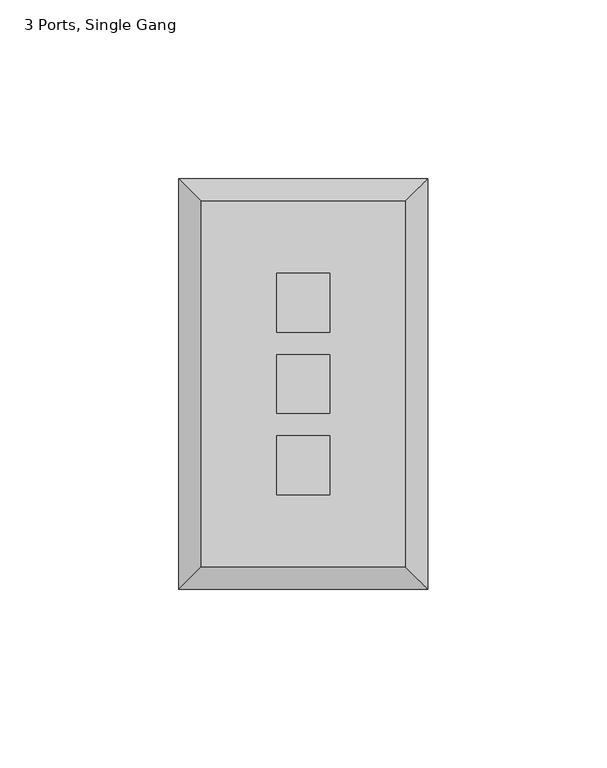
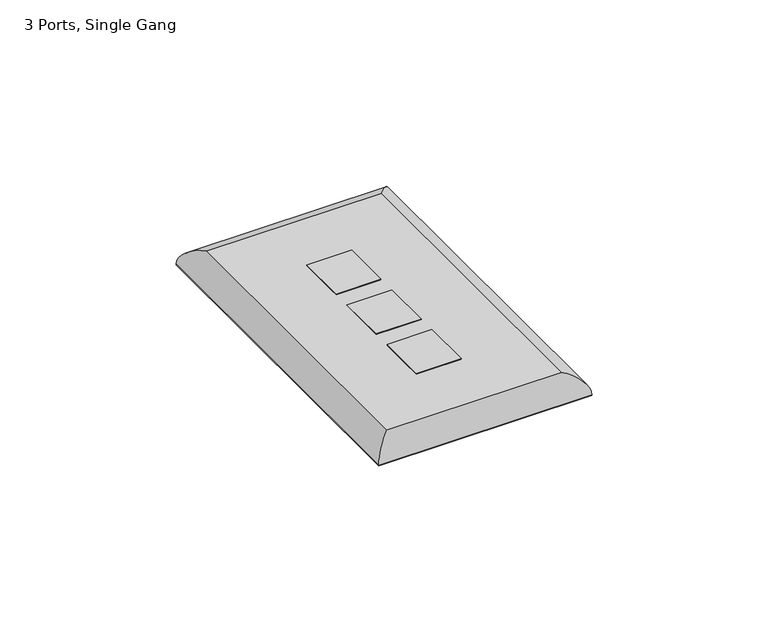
"""IFC4 building model written with IfcOpenShell, lengths in millimetres: electric appliance geometry, Data_Device-Work_Area-Leviton-QuickPort-Wallplate : 3 Ports, Single Gang."""

from ifc_helpers import new_model, si_unit, frame, origin, origin_with_axes, place, context, project, spatial, polyline, ellipse_curve, outline, extrude, source, transform, mapped, element, save
from ifc_brep_helpers import plane_surface, cylinder_surface, advanced_brep


def electric_appliance_3_ports_single_gang_4424a466(model_context):
    return source(origin(), model_context, "Body", "SolidModel", [
        extrude(outline(polyline([(-15.6591, 16.4465), (-15.6591, -0.0635), (-30.3911, -0.0635), (-30.3911, 16.4465), (-15.6591, 16.4465)])), origin_with_axes(), (0.0, 0.0, 1.0), 6.35),
        extrude(outline(polyline([(-15.6591, 39.1795), (-15.6591, 22.6695), (-30.3911, 22.6695), (-30.3911, 39.1795), (-15.6591, 39.1795)])), origin_with_axes(), (0.0, 0.0, 1.0), 6.35),
        extrude(outline(polyline([(-15.6591, -6.2865), (-15.6591, -22.7965), (-30.3911, -22.7965), (-30.3911, -6.2865), (-15.6591, -6.2865)])), origin_with_axes(), (0.0, 0.0, 1.0), 6.35),
        advanced_brep(
        [(5.5499, -42.9895, 6.35), (5.5499, 59.3725, 6.35), (-51.6001, 59.3725, 6.35), (-51.6001, -42.9895, 6.35), (-30.3911, 39.1795, 6.35), (-15.6591, 39.1795, 6.35), (-15.6591, 22.6695, 6.35), (-30.3911, 22.6695, 6.35), (-30.3911, 16.4465, 6.35), (-15.6591, 16.4465, 6.35), (-15.6591, -0.0635, 6.35), (-30.3911, -0.0635, 6.35), (-30.3911, -6.2865, 6.35), (-15.6591, -6.2865, 6.35), (-15.6591, -22.7965, 6.35), (-30.3911, -22.7965, 6.35), (11.8999, 65.7225, 0.0), (11.8999, -49.3395, 0.0), (-57.9501, -49.3395, 0.0), (-57.9501, 65.7225, 0.0), (-15.6591, 39.1795, 0.0), (-30.3911, 39.1795, 0.0), (-30.3911, 22.6695, 0.0), (-15.6591, 22.6695, 0.0), (-15.6591, 16.4465, 0.0), (-30.3911, 16.4465, 0.0), (-30.3911, -0.0635, 0.0), (-15.6591, -0.0635, 0.0), (-15.6591, -6.2865, 0.0), (-30.3911, -6.2865, 0.0), (-30.3911, -22.7965, 0.0), (-15.6591, -22.7965, 0.0), (-57.9501, 65.7225, 0.254), (11.8999, 65.7225, 0.254), (-57.9501, -49.3395, 0.254), (11.8999, -49.3395, 0.254)],
        [
            (0, 1),
            (1, 2),
            (2, 3),
            (3, 0),
            (4, 5),
            (5, 6),
            (6, 7),
            (7, 4),
            (8, 9),
            (9, 10),
            (10, 11),
            (11, 8),
            (12, 13),
            (13, 14),
            (14, 15),
            (15, 12),
            (16, 17),
            (17, 18),
            (18, 19),
            (19, 16),
            (20, 21),
            (21, 22),
            (22, 23),
            (23, 20),
            (24, 25),
            (25, 26),
            (26, 27),
            (27, 24),
            (28, 29),
            (29, 30),
            (30, 31),
            (31, 28),
            (19, 32),
            (32, 33),
            (33, 16),
            (18, 34),
            (34, 32),
            (17, 35),
            (35, 34),
            (33, 35),
            (4, 21),
            (20, 5),
            (7, 22),
            (6, 23),
            (8, 25),
            (24, 9),
            (11, 26),
            (10, 27),
            (12, 29),
            (28, 13),
            (15, 30),
            (14, 31),
            (0, 35, ellipse_curve(frame((5.5499, -42.9895, -0.0052917), z_axis=(0.7071067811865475, 0.7071067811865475, 0.0), x_axis=(0.7071067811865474, -0.7071067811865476, 0.0)), 8.9877397, 6.3552917)),
            (33, 1, ellipse_curve(frame((5.5499, 59.3725, -0.0052917), z_axis=(0.7071067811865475, -0.7071067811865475, 0.0), x_axis=(-0.7071067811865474, -0.7071067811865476, 0.0)), 8.9877397, 6.3552917)),
            (3, 34, ellipse_curve(frame((-51.6001, -42.9895, -0.0052917), z_axis=(0.7071067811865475, -0.7071067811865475, 0.0), x_axis=(-0.7071067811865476, -0.7071067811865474, 0.0)), 8.9877397, 6.3552917)),
            (2, 32, ellipse_curve(frame((-51.6001, 59.3725, -0.0052917), z_axis=(-0.7071067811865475, -0.7071067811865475, 0.0), x_axis=(-0.7071067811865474, 0.7071067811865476, 0.0)), 8.9877397, 6.3552917)),
        ],
        [
            plane_surface(frame((-57.9501, 65.7225, 6.35), z_axis=(0.0, 0.0, 1.0), x_axis=(-1.0, 0.0, 0.0))),
            plane_surface(frame((-57.9501, 65.7225, 0.0), z_axis=(0.0, 0.0, -1.0), x_axis=(1.0, 0.0, 0.0))),
            plane_surface(frame((11.8999, 65.7225, 6.35), z_axis=(0.0, 1.0, 0.0), x_axis=(0.0, 0.0, -1.0))),
            plane_surface(frame((-57.9501, 65.7225, 6.35), z_axis=(-1.0, 0.0, 0.0), x_axis=(0.0, 0.0, -1.0))),
            plane_surface(frame((-57.9501, -49.3395, 6.35), z_axis=(0.0, -1.0, 0.0), x_axis=(0.0, 0.0, -1.0))),
            plane_surface(frame((11.8999, -49.3395, 6.35), z_axis=(1.0, 0.0, 0.0), x_axis=(0.0, 0.0, -1.0))),
            plane_surface(frame((-15.6591, 39.1795, 6.35), z_axis=(0.0, -1.0, 0.0), x_axis=(0.0, 0.0, -1.0))),
            plane_surface(frame((-30.3911, 39.1795, 6.35), z_axis=(1.0, 0.0, 0.0), x_axis=(0.0, 0.0, -1.0))),
            plane_surface(frame((-30.3911, 22.6695, 6.35), z_axis=(0.0, 1.0, 0.0), x_axis=(0.0, 0.0, -1.0))),
            plane_surface(frame((-15.6591, 22.6695, 6.35), z_axis=(-1.0, 0.0, 0.0), x_axis=(0.0, 0.0, -1.0))),
            plane_surface(frame((-15.6591, 16.4465, 6.35), z_axis=(0.0, -1.0, 0.0), x_axis=(0.0, 0.0, -1.0))),
            plane_surface(frame((-30.3911, 16.4465, 6.35), z_axis=(1.0, 0.0, 0.0), x_axis=(0.0, 0.0, -1.0))),
            plane_surface(frame((-30.3911, -0.0635, 6.35), z_axis=(0.0, 1.0, 0.0), x_axis=(0.0, 0.0, -1.0))),
            plane_surface(frame((-15.6591, -0.0635, 6.35), z_axis=(-1.0, 0.0, 0.0), x_axis=(0.0, 0.0, -1.0))),
            plane_surface(frame((-15.6591, -6.2865, 6.35), z_axis=(0.0, -1.0, 0.0), x_axis=(0.0, 0.0, -1.0))),
            plane_surface(frame((-30.3911, -6.2865, 6.35), z_axis=(1.0, 0.0, 0.0), x_axis=(0.0, 0.0, -1.0))),
            plane_surface(frame((-30.3911, -22.7965, 6.35), z_axis=(0.0, 1.0, 0.0), x_axis=(0.0, 0.0, -1.0))),
            plane_surface(frame((-15.6591, -22.7965, 6.35), z_axis=(-1.0, 0.0, 0.0), x_axis=(0.0, 0.0, -1.0))),
            cylinder_surface(frame((5.5499, 65.7225, -0.0052917), z_axis=(0.0, -1.0, 0.0), x_axis=(1.0, 0.0, 0.0)), 6.3552917),
            cylinder_surface(frame((11.8999, -42.9895, -0.0052917), z_axis=(-1.0, 0.0, 0.0), x_axis=(0.0, -1.0, 0.0)), 6.3552917),
            cylinder_surface(frame((-51.6001, -49.3395, -0.0052917), z_axis=(0.0, 1.0, 0.0), x_axis=(-1.0, 0.0, 0.0)), 6.3552917),
            cylinder_surface(frame((-57.9501, 59.3725, -0.0052917), z_axis=(1.0, 0.0, 0.0), x_axis=(0.0, 1.0, 0.0)), 6.3552917),
        ],
        [
            (0, [[1, 2, 3, 4], [5, 6, 7, 8], [9, 10, 11, 12], [13, 14, 15, 16]]),
            (1, [[17, 18, 19, 20], [21, 22, 23, 24], [25, 26, 27, 28], [29, 30, 31, 32]]),
            (2, [[-20, 33, 34, 35]]),
            (3, [[-19, 36, 37, -33]]),
            (4, [[-18, 38, 39, -36]]),
            (5, [[-17, -35, 40, -38]]),
            (6, [[41, -21, 42, -5]]),
            (7, [[-41, -8, 43, -22]]),
            (8, [[-43, -7, 44, -23]]),
            (9, [[-42, -24, -44, -6]]),
            (10, [[45, -25, 46, -9]]),
            (11, [[-45, -12, 47, -26]]),
            (12, [[-47, -11, 48, -27]]),
            (13, [[-46, -28, -48, -10]]),
            (14, [[49, -29, 50, -13]]),
            (15, [[-49, -16, 51, -30]]),
            (16, [[-51, -15, 52, -31]]),
            (17, [[-50, -32, -52, -14]]),
            (18, [[53, -40, 54, -1]]),
            (19, [[-53, -4, 55, -39]]),
            (20, [[-55, -3, 56, -37]]),
            (21, [[-54, -34, -56, -2]]),
        ],
    ),
        extrude(outline(polyline([(11.6459, 65.4685), (11.6459, -49.0855), (-57.6961, -49.0855), (-57.6961, 65.4685), (11.6459, 65.4685)]), holes=[polyline([(-15.6591, 39.1795), (-30.3911, 39.1795), (-30.3911, 22.6695), (-15.6591, 22.6695), (-15.6591, 39.1795)]), polyline([(-15.6591, 16.4465), (-30.3911, 16.4465), (-30.3911, -0.0635), (-15.6591, -0.0635), (-15.6591, 16.4465)]), polyline([(-15.6591, -6.2865), (-30.3911, -6.2865), (-30.3911, -22.7965), (-15.6591, -22.7965), (-15.6591, -6.2865)])]), origin_with_axes(), (0.0, 0.0, 1.0), 0.254),
    ])


if __name__ == "__main__":
    model = new_model("IFC4")
    model_context = context("Model", 3, world=origin())
    ifc_project = project(units=[si_unit("LENGTHUNIT", "METRE", prefix="MILLI")], contexts=[model_context])
    site = spatial("IfcSite", under=ifc_project)
    building = spatial("IfcBuilding", under=site)
    placement = place(None, origin())
    electric_appliance_3_ports_single_gang_shape = electric_appliance_3_ports_single_gang_4424a466(model_context)
    element("IfcElectricAppliance", 1, ObjectType="Data_Device-Work_Area-Leviton-QuickPort-Wallplate : 3 Ports, Single Gang", at=placement, inside=building, context=model_context, shape_type="MappedRepresentation", body=[
        mapped(electric_appliance_3_ports_single_gang_shape, transform((0.0, 0.0, 0.0), x_axis=(1.0, 0.0, 0.0), y_axis=(0.0, 1.0, 0.0), z_axis=(0.0, 0.0, 1.0))),
    ])
    save(model, "model.ifc")
